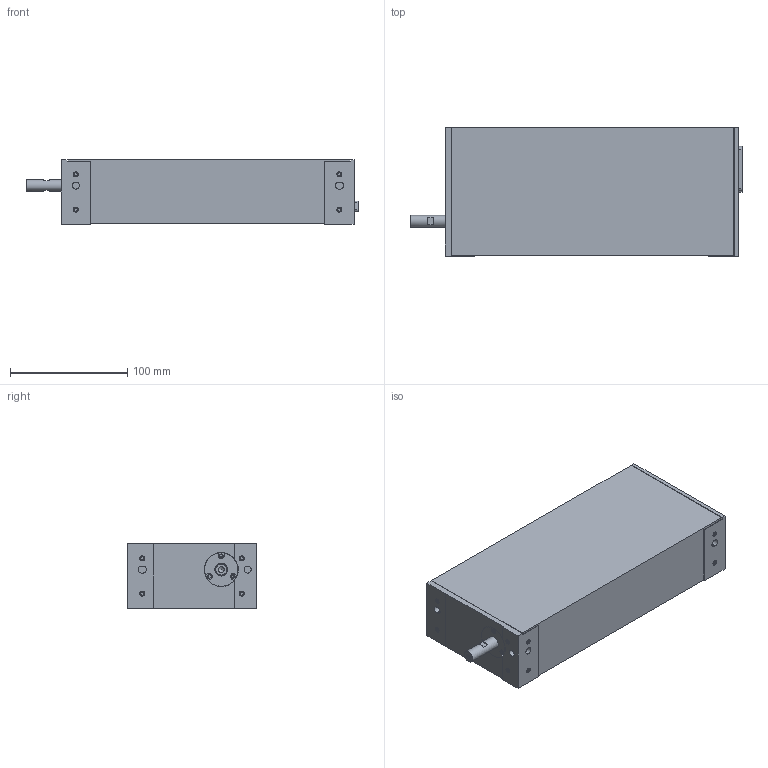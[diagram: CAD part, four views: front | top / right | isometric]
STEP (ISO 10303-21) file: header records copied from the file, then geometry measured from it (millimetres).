
FILE_DESCRIPTION((''),'2;1');
FILE_NAME('E:\LAL55 UPDATED SHAFT SPECS\LAL55 WITH M6.stp','2015-08-13T09:39:46',('ryan'),(''),'Autodesk Inventor 2008','Autodesk Inventor 2008','');
FILE_SCHEMA(('AUTOMOTIVE_DESIGN { 1 0 10303 214 1 1 1 1 }'));
Length unit declared in the file: millimetre
Products named in the file (4): LAL55-100-5_F; 2A9FD; 2A9FDA_1; 2A9FDB
Assembly tree (3 placements, depth 2):
  LAL55-100-5_F
    2A9FD
    2A9FDA_1
    2A9FDB
Bounding box: 283.4 x 110 x 55 mm (x, y, z)
Volume: 1490731.7 mm3; surface area: 100799 mm2
Topology: 2 solids, 3 shells, 304 faces, 631 edges, 379 vertices
Faces by surface type: cone 125, plane 114, cylinder 57, bspline 8
Full cylindrical faces by diameter (mm): 1.25 x24, 3 x6, 6 x2, 10 x1, 11 x1, 28.5 x1, 29 x1
Entity records: 7273 total; most frequent: DIRECTION 1326, CARTESIAN_POINT 1269, ORIENTED_EDGE 903, AXIS2_PLACEMENT_3D 571, EDGE_LOOP 523, EDGE_CURVE 452, VERTEX_POINT 370, FACE_OUTER_BOUND 304
